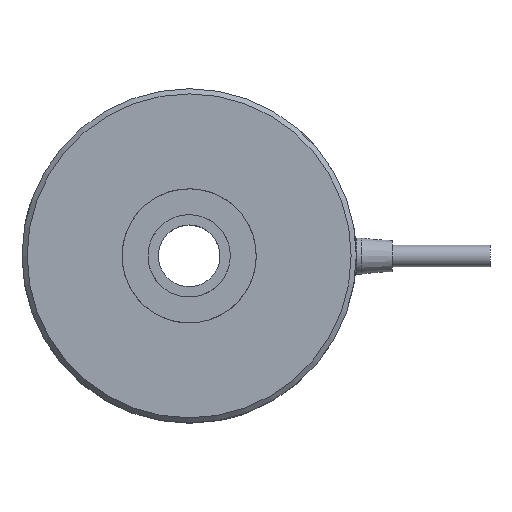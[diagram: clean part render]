
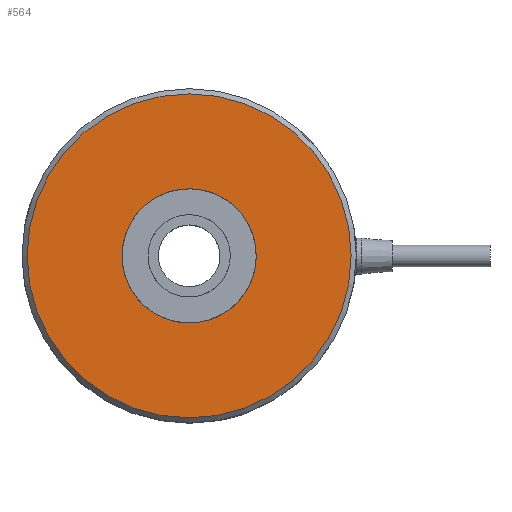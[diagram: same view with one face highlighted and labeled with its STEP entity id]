
A CAD part, top view. The second image highlights one B-rep face of the part: STEP entity #564.
In plain terms, the highlighted planar face has unit normal (0, 0, 1).
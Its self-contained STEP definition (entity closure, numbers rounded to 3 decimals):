
#564=ADVANCED_FACE('',(#949,#950),#951,.F.);
#949=FACE_OUTER_BOUND('',#1423,.T.);
#950=FACE_BOUND('',#1424,.T.);
#951=PLANE('',#1425);
#1423=EDGE_LOOP('',(#1924));
#1424=EDGE_LOOP('',(#1925));
#1425=AXIS2_PLACEMENT_3D('',#1926,#1927,#1928);
#1924=ORIENTED_EDGE('',*,*,#2683,.T.);
#1925=ORIENTED_EDGE('',*,*,#2684,.T.);
#1926=CARTESIAN_POINT('',(0.,16.25,30.0));
#1927=DIRECTION('',(0.,0.,-1.0));
#1928=DIRECTION('',(0.,-1.0,0.));
#2683=EDGE_CURVE('',#3024,#3024,#3025,.F.);
#2684=EDGE_CURVE('',#3026,#3026,#3027,.T.);
#3024=VERTEX_POINT('',#3778);
#3025=CIRCLE('',#3779,31.5);
#3026=VERTEX_POINT('',#3780);
#3027=CIRCLE('',#3781,13.05);
#3778=CARTESIAN_POINT('',(0.,-31.5,30.0));
#3779=AXIS2_PLACEMENT_3D('',#4691,#4692,#4693);
#3780=CARTESIAN_POINT('',(0.,-13.05,30.0));
#3781=AXIS2_PLACEMENT_3D('',#4694,#4695,#4696);
#4691=CARTESIAN_POINT('',(0.,0.,30.0));
#4692=DIRECTION('',(0.,0.,-1.0));
#4693=DIRECTION('',(0.,-1.0,0.));
#4694=CARTESIAN_POINT('',(0.,0.,30.0));
#4695=DIRECTION('',(0.,0.,-1.0));
#4696=DIRECTION('',(0.,-1.0,0.));
